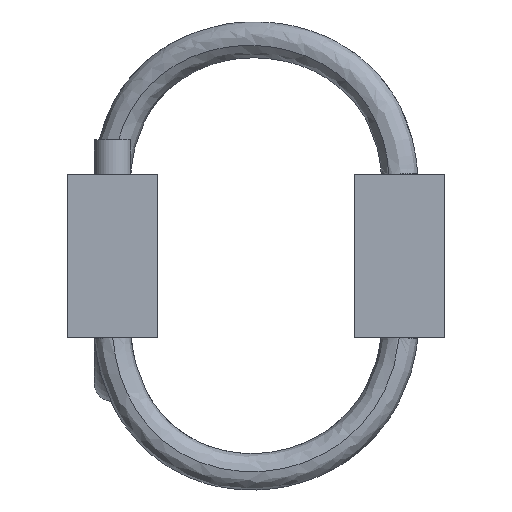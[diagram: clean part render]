
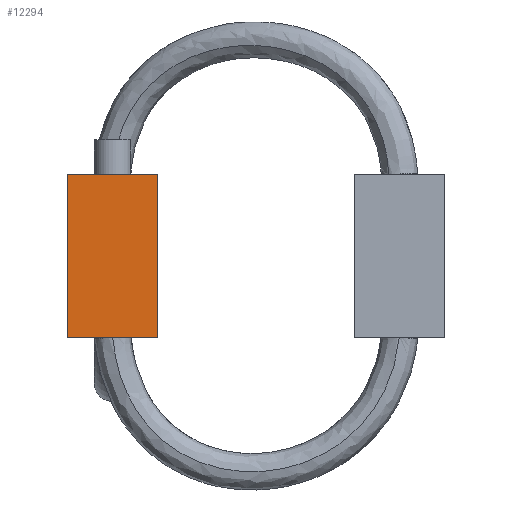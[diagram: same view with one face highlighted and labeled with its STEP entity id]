
A CAD part, left-side view. The second image highlights one B-rep face of the part: STEP entity #12294.
In plain terms, the highlighted planar face has unit normal (-1, 0, 0).
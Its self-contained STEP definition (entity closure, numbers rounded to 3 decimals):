
#1642 = VERTEX_POINT ( 'NONE', #18118 ) ;
#1675 = ORIENTED_EDGE ( 'NONE', *, *, #20789, .F. ) ;
#1782 = ORIENTED_EDGE ( 'NONE', *, *, #14834, .F. ) ;
#2389 = VECTOR ( 'NONE', #16329, 1000. ) ;
#2984 = DIRECTION ( 'NONE',  ( 0., 0., 1. ) ) ;
#3854 = CARTESIAN_POINT ( 'NONE',  ( -63.5, 8.6, -7.15 ) ) ;
#4646 = CARTESIAN_POINT ( 'NONE',  ( -63.5, 16.5, -7.15 ) ) ;
#6618 = CARTESIAN_POINT ( 'NONE',  ( -63.5, 16.5, 7.15 ) ) ;
#7010 = EDGE_CURVE ( 'NONE', #11425, #13555, #21395, .T. ) ;
#7551 = ORIENTED_EDGE ( 'NONE', *, *, #7010, .F. ) ;
#8064 = VECTOR ( 'NONE', #16533, 1000. ) ;
#8234 = VERTEX_POINT ( 'NONE', #11298 ) ;
#8573 = LINE ( 'NONE', #6618, #8064 ) ;
#8623 = AXIS2_PLACEMENT_3D ( 'NONE', #15870, #20621, #10759 ) ;
#9765 = CARTESIAN_POINT ( 'NONE',  ( -63.5, 8.6, -7.15 ) ) ;
#9946 = FACE_OUTER_BOUND ( 'NONE', #11726, .T. ) ;
#9962 = CARTESIAN_POINT ( 'NONE',  ( -63.5, 8.6, 7.15 ) ) ;
#10165 = VECTOR ( 'NONE', #2984, 1000. ) ;
#10759 = DIRECTION ( 'NONE',  ( 0., 0., 1. ) ) ;
#11284 = LINE ( 'NONE', #16248, #2389 ) ;
#11298 = CARTESIAN_POINT ( 'NONE',  ( -63.5, 16.5, 7.15 ) ) ;
#11425 = VERTEX_POINT ( 'NONE', #9962 ) ;
#11726 = EDGE_LOOP ( 'NONE', ( #20660, #1782, #1675, #7551 ) ) ;
#12294 = ADVANCED_FACE ( 'NONE', ( #9946 ), #18969, .T. ) ;
#13555 = VERTEX_POINT ( 'NONE', #3854 ) ;
#14539 = LINE ( 'NONE', #4646, #10165 ) ;
#14834 = EDGE_CURVE ( 'NONE', #1642, #8234, #14539, .T. ) ;
#14966 = VECTOR ( 'NONE', #19641, 1000. ) ;
#15137 = EDGE_CURVE ( 'NONE', #8234, #11425, #8573, .T. ) ;
#15870 = CARTESIAN_POINT ( 'NONE',  ( -63.5, 12.55, 0. ) ) ;
#16248 = CARTESIAN_POINT ( 'NONE',  ( -63.5, 16.5, -7.15 ) ) ;
#16329 = DIRECTION ( 'NONE',  ( 0., 1., 0. ) ) ;
#16533 = DIRECTION ( 'NONE',  ( 0., -1., 0. ) ) ;
#18118 = CARTESIAN_POINT ( 'NONE',  ( -63.5, 16.5, -7.15 ) ) ;
#18969 = PLANE ( 'NONE',  #8623 ) ;
#19641 = DIRECTION ( 'NONE',  ( 0., 0., -1. ) ) ;
#20621 = DIRECTION ( 'NONE',  ( -1., 0., 0. ) ) ;
#20660 = ORIENTED_EDGE ( 'NONE', *, *, #15137, .F. ) ;
#20789 = EDGE_CURVE ( 'NONE', #13555, #1642, #11284, .T. ) ;
#21395 = LINE ( 'NONE', #9765, #14966 ) ;
